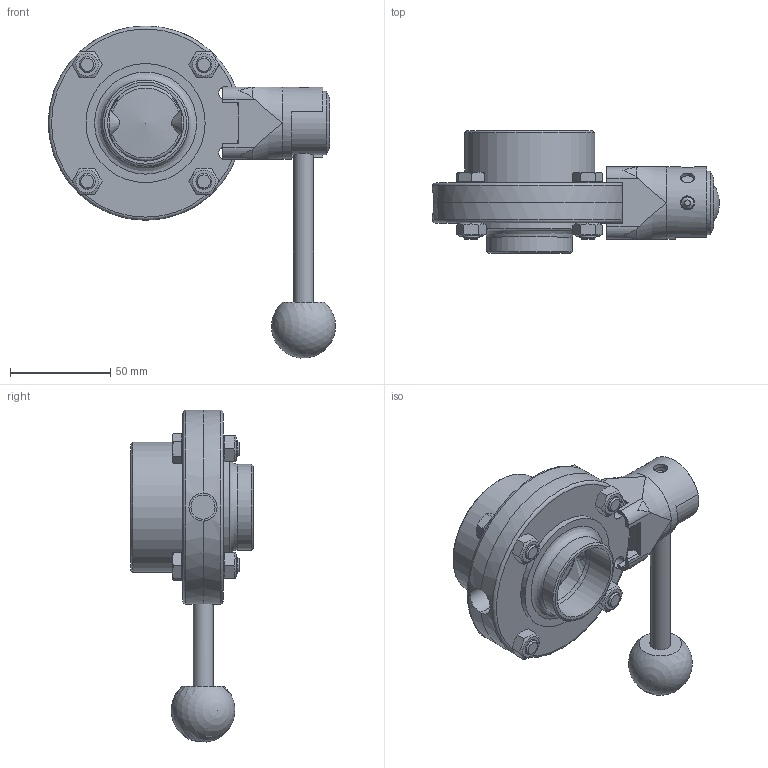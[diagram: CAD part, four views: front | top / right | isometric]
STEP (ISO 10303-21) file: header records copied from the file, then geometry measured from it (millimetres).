
FILE_DESCRIPTION((''),'2;1');
FILE_NAME('K:\2013 konstrukce\4xxxx\43020-KLAPKA PŘÍMÁ G-S\43020-040\43020-040.stp','2019-12-09T14:13:02',('konstrukce'),(''),'Autodesk Inventor 2010','Autodesk Inventor 2010','');
FILE_SCHEMA(('AUTOMOTIVE_DESIGN { 1 0 10303 214 1 1 1 1 }'));
Length unit declared in the file: millimetre
Products named in the file (15): 43020-040; 4329-040-Srdca klapky; 4330-040-Ložisko klapky; 4381-040-R-NEW-TW-PŘÍRUBA PŘÍVAŘOVACÍ; 4382-040-NEW-TW-Přírubá klapka-závitová; 20040-040-Těsnění; 4328-040-Těsnění pro klapku; DIN 933 - nahrazený DIN EN 24017 M8  x 28; DIN 934 - nahrazený DIN EN 24032/28673/28674 M8; ovladani 25-65; 43483-025-065 Plášť ovládání malý-Handle cover small; KOULA-25-65; 43481-025-065-9,5 Střed ovládání malý-Handle pivot small; 43482-025-032; 43482-025-32
Assembly tree (21 placements, depth 3):
  43020-040
    4329-040-Srdca klapky
    4330-040-Ložisko klapky  x2
    4381-040-R-NEW-TW-PŘÍRUBA PŘÍVAŘOVACÍ
    4382-040-NEW-TW-Přírubá klapka-závitová
    20040-040-Těsnění
    4328-040-Těsnění pro klapku
    DIN 933 - nahrazený DIN EN 24017 M8  x 28  x4
    DIN 934 - nahrazený DIN EN 24032/28673/28674 M8  x4
    ovladani 25-65
      43483-025-065 Plášť ovládání malý-Handle cover small
      KOULA-25-65
      43481-025-065-9,5 Střed ovládání malý-Handle pivot small
      43482-025-032
      43482-025-32
Bounding box: 143.39 x 61 x 165.86 mm (x, y, z)
Volume: 256116.9 mm3; surface area: 101556.5 mm2
Topology: 20 solids, 20 shells, 330 faces, 790 edges, 500 vertices
Faces by surface type: plane 153, cylinder 73, cone 69, bspline 23, torus 11, sphere 1
Full cylindrical faces by diameter (mm): 6 x1, 6.5 x4, 7 x1, 7.323 x4, 8 x4, 8.5 x11, 10 x2, 10.2 x1, 11.4 x4, 12 x4, 14 x4, 14.1 x1, 31.8 x1, 36 x1, 38 x2, 42 x2, 43 x1, 51.8 x1, 52 x1, 54 x1, 54.6 x2, 59.5 x1, 65 x1, 97 x2
Entity records: 7757 total; most frequent: CARTESIAN_POINT 2504, DIRECTION 1002, ORIENTED_EDGE 868, EDGE_CURVE 434, AXIS2_PLACEMENT_3D 418, EDGE_LOOP 378, VERTEX_POINT 328, FACE_OUTER_BOUND 224
